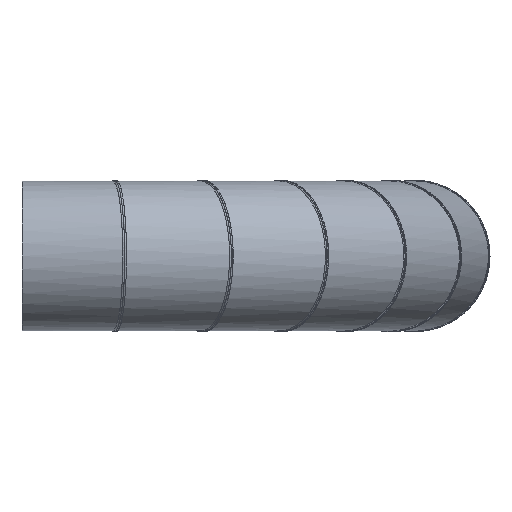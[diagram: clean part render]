
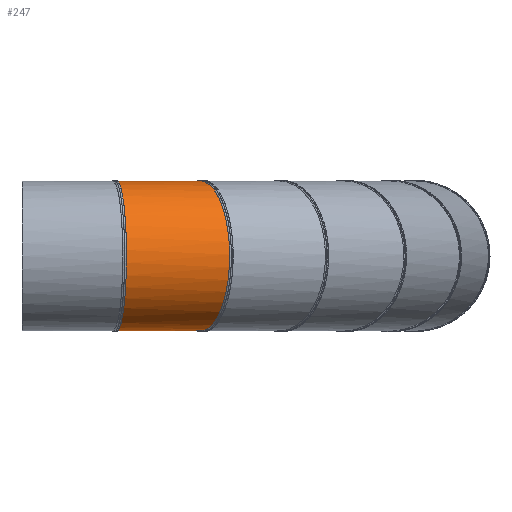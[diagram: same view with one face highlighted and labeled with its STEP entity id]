
A CAD part, front view. The second image highlights one B-rep face of the part: STEP entity #247.
In plain terms, the highlighted cylindrical face has radius 315 mm (diameter 630 mm), a full revolution.
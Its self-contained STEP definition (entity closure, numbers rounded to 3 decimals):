
#74=ORIENTED_EDGE('',*,*,#126,.F.);
#75=ORIENTED_EDGE('',*,*,#127,.T.);
#126=EDGE_CURVE('',#152,#152,#172,.T.);
#127=EDGE_CURVE('',#153,#153,#173,.T.);
#152=VERTEX_POINT('',#445);
#153=VERTEX_POINT('',#483);
#172=B_SPLINE_CURVE_WITH_KNOTS('',3,(#408,#409,#410,#411,#412,#413,#414,
#415,#416,#417,#418,#419,#420,#421,#422,#423,#424,#425,#426,#427,#428,#429,
#430,#431,#432,#433,#434,#435,#436,#437,#438,#439,#440,#441,#442,#443,#444),
 .UNSPECIFIED.,.T.,.F.,(1,1,1,1,1,1,1,1,1,1,1,1,1,1,1,1,1,1,1,1,1,1,1,1,
1,1,1,1,1,1,1,1,1,1,1,1,1,1,1,1,1),(-0.124,-0.062,
-0.031,0.,0.031,0.062,
0.124,0.186,0.249,0.311,
0.373,0.435,0.497,0.559,
0.622,0.684,0.746,0.808,
0.87,0.932,0.995,1.057,
1.119,1.181,1.243,1.305,1.368,
1.43,1.492,1.554,1.616,1.678,
1.741,1.803,1.865,1.927,1.958,
1.989,2.02,2.051,2.114),
 .UNSPECIFIED.);
#173=B_SPLINE_CURVE_WITH_KNOTS('',3,(#446,#447,#448,#449,#450,#451,#452,
#453,#454,#455,#456,#457,#458,#459,#460,#461,#462,#463,#464,#465,#466,#467,
#468,#469,#470,#471,#472,#473,#474,#475,#476,#477,#478,#479,#480,#481,#482),
 .UNSPECIFIED.,.T.,.F.,(1,1,1,1,1,1,1,1,1,1,1,1,1,1,1,1,1,1,1,1,1,1,1,1,
1,1,1,1,1,1,1,1,1,1,1,1,1,1,1,1,1),(-0.124,-0.062,
-0.031,0.,0.031,0.062,
0.124,0.186,0.249,0.311,
0.373,0.435,0.497,0.559,
0.622,0.684,0.746,0.808,
0.87,0.932,0.995,1.057,1.119,
1.181,1.243,1.305,1.368,1.43,
1.492,1.554,1.616,1.678,1.741,
1.803,1.865,1.927,1.958,1.989,
2.02,2.051,2.114),.UNSPECIFIED.);
#181=EDGE_LOOP('',(#74));
#182=EDGE_LOOP('',(#75));
#209=FACE_BOUND('',#181,.T.);
#210=FACE_BOUND('',#182,.T.);
#237=CYLINDRICAL_SURFACE('',#290,315.);
#247=ADVANCED_FACE('',(#209,#210),#237,.T.);
#290=AXIS2_PLACEMENT_3D('',#407,#330,#331);
#330=DIRECTION('',(0.259,0.966,0.));
#331=DIRECTION('',(-0.966,0.259,0.));
#407=CARTESIAN_POINT('',(1465.096,-151.413,0.));
#408=CARTESIAN_POINT('',(1138.303,-157.895,-31.029));
#409=CARTESIAN_POINT('',(1136.773,-157.693,-0.009));
#410=CARTESIAN_POINT('',(1138.306,-157.896,31.065));
#411=CARTESIAN_POINT('',(1144.413,-158.701,72.062));
#412=CARTESIAN_POINT('',(1159.563,-160.699,121.789));
#413=CARTESIAN_POINT('',(1189.036,-164.585,176.677));
#414=CARTESIAN_POINT('',(1228.602,-169.8,224.671));
#415=CARTESIAN_POINT('',(1276.689,-176.138,263.956));
#416=CARTESIAN_POINT('',(1331.419,-183.349,293.077));
#417=CARTESIAN_POINT('',(1390.697,-191.157,310.976));
#418=CARTESIAN_POINT('',(1452.283,-199.266,317.013));
#419=CARTESIAN_POINT('',(1513.868,-207.373,310.973));
#420=CARTESIAN_POINT('',(1573.145,-215.173,293.072));
#421=CARTESIAN_POINT('',(1627.876,-222.373,263.949));
#422=CARTESIAN_POINT('',(1675.959,-228.696,224.669));
#423=CARTESIAN_POINT('',(1715.538,-233.9,176.66));
#424=CARTESIAN_POINT('',(1745.006,-237.774,121.774));
#425=CARTESIAN_POINT('',(1763.189,-240.164,62.104));
#426=CARTESIAN_POINT('',(1769.332,-240.971,-0.011));
#427=CARTESIAN_POINT('',(1763.184,-240.163,-62.126));
#428=CARTESIAN_POINT('',(1744.998,-237.773,-121.794));
#429=CARTESIAN_POINT('',(1715.526,-233.898,-176.677));
#430=CARTESIAN_POINT('',(1675.947,-228.695,-224.68));
#431=CARTESIAN_POINT('',(1627.859,-222.37,-263.96));
#432=CARTESIAN_POINT('',(1573.126,-215.17,-293.08));
#433=CARTESIAN_POINT('',(1513.847,-207.37,-310.977));
#434=CARTESIAN_POINT('',(1452.26,-199.263,-317.013));
#435=CARTESIAN_POINT('',(1390.675,-191.154,-310.972));
#436=CARTESIAN_POINT('',(1331.4,-183.346,-293.069));
#437=CARTESIAN_POINT('',(1276.672,-176.136,-263.944));
#438=CARTESIAN_POINT('',(1228.592,-169.799,-224.662));
#439=CARTESIAN_POINT('',(1189.018,-164.582,-176.652));
#440=CARTESIAN_POINT('',(1159.554,-160.697,-121.763));
#441=CARTESIAN_POINT('',(1144.407,-158.7,-72.041));
#442=CARTESIAN_POINT('',(1138.303,-157.895,-31.029));
#443=CARTESIAN_POINT('',(1136.773,-157.693,-0.009));
#444=CARTESIAN_POINT('',(1138.306,-157.896,31.065));
#445=CARTESIAN_POINT('',(1137.284,-157.761,0.));
#446=CARTESIAN_POINT('',(1064.747,-432.41,-31.029));
#447=CARTESIAN_POINT('',(1063.321,-431.82,-0.009));
#448=CARTESIAN_POINT('',(1064.749,-432.411,31.065));
#449=CARTESIAN_POINT('',(1070.441,-434.768,72.062));
#450=CARTESIAN_POINT('',(1084.561,-440.613,121.789));
#451=CARTESIAN_POINT('',(1112.028,-451.983,176.677));
#452=CARTESIAN_POINT('',(1148.901,-467.25,224.671));
#453=CARTESIAN_POINT('',(1193.714,-485.804,263.956));
#454=CARTESIAN_POINT('',(1244.717,-506.925,293.077));
#455=CARTESIAN_POINT('',(1299.957,-529.802,310.976));
#456=CARTESIAN_POINT('',(1357.347,-553.572,317.013));
#457=CARTESIAN_POINT('',(1414.735,-577.344,310.973));
#458=CARTESIAN_POINT('',(1469.97,-600.228,293.072));
#459=CARTESIAN_POINT('',(1520.968,-621.358,263.948));
#460=CARTESIAN_POINT('',(1565.771,-639.923,224.669));
#461=CARTESIAN_POINT('',(1602.649,-655.206,176.66));
#462=CARTESIAN_POINT('',(1630.107,-666.585,121.774));
#463=CARTESIAN_POINT('',(1647.048,-673.607,62.104));
#464=CARTESIAN_POINT('',(1652.772,-675.979,-0.012));
#465=CARTESIAN_POINT('',(1647.044,-673.605,-62.127));
#466=CARTESIAN_POINT('',(1630.099,-666.582,-121.794));
#467=CARTESIAN_POINT('',(1602.638,-655.201,-176.677));
#468=CARTESIAN_POINT('',(1565.76,-639.918,-224.68));
#469=CARTESIAN_POINT('',(1520.953,-621.351,-263.96));
#470=CARTESIAN_POINT('',(1469.952,-600.22,-293.08));
#471=CARTESIAN_POINT('',(1414.714,-577.336,-310.977));
#472=CARTESIAN_POINT('',(1357.326,-553.563,-317.013));
#473=CARTESIAN_POINT('',(1299.937,-529.793,-310.972));
#474=CARTESIAN_POINT('',(1244.699,-506.917,-293.069));
#475=CARTESIAN_POINT('',(1193.697,-485.798,-263.944));
#476=CARTESIAN_POINT('',(1148.891,-467.246,-224.661));
#477=CARTESIAN_POINT('',(1112.011,-451.976,-176.651));
#478=CARTESIAN_POINT('',(1084.551,-440.609,-121.762));
#479=CARTESIAN_POINT('',(1070.435,-434.765,-72.04));
#480=CARTESIAN_POINT('',(1064.747,-432.41,-31.029));
#481=CARTESIAN_POINT('',(1063.321,-431.82,-0.009));
#482=CARTESIAN_POINT('',(1064.749,-432.411,31.065));
#483=CARTESIAN_POINT('',(1063.797,-432.017,0.));
